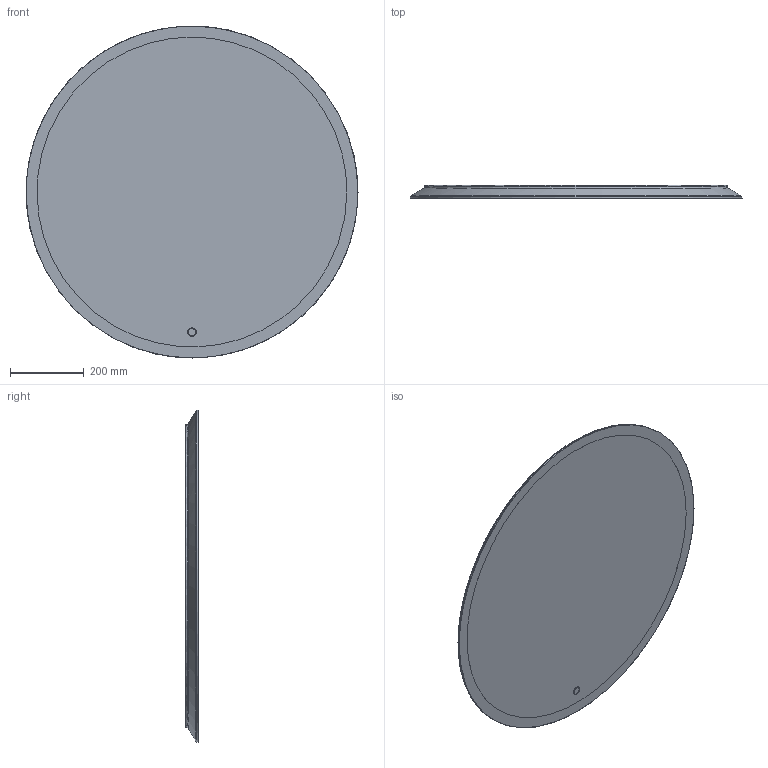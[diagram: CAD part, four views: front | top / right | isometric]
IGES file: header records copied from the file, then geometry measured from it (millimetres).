
Global section: file name: 502799; native system: Autodesk Inventor 2021; preprocessor: unknown; author: JANAN; date: 20221202.150814; units: millimetre
Bounding box: 900 x 35.1 x 900 mm (x, y, z)
Volume: 20367603.2 mm3; surface area: 2748936 mm2
Topology: 4 solids, 4 shells, 25 faces, 55 edges, 41 vertices
Faces by surface type: bspline 25
